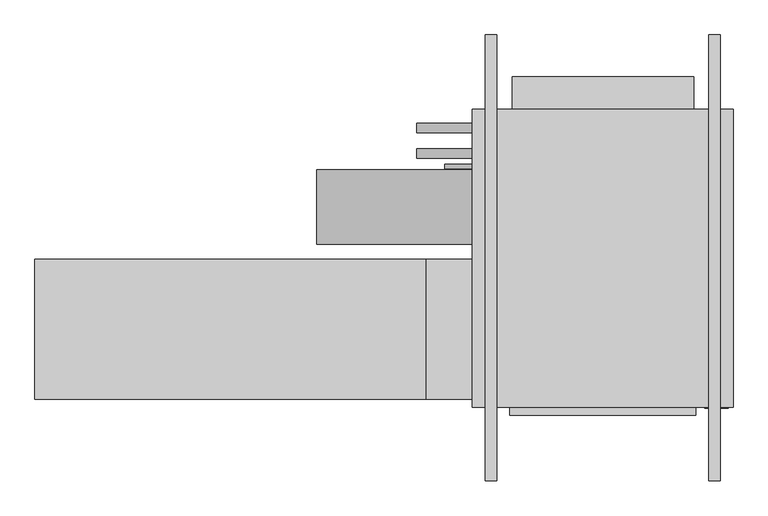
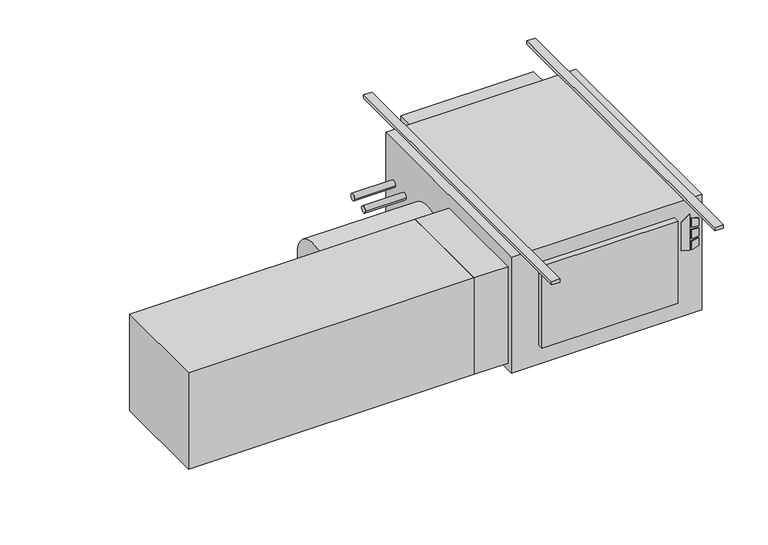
"""IFC4 building model written with IfcOpenShell, lengths in millimetres: proxy geometry."""

from ifc_helpers import new_model, si_unit, point, frame, frame_2d, origin, origin_with_axes, place, context, project, spatial, polyline, circle_curve, trimmed, segment, composite_curve, outline, extrude, source, transform, mapped, element, save


def mechanical_equipment_ee88df2d(model_context):
    return source(origin(), model_context, "Body", "SweptSolid", [
        extrude(outline(polyline([(-193.2519297, 430.2868862), (-203.2, 462.4602728), (-61.0290756, 462.4602728), (-84.0510817, 430.2868862), (-193.2519297, 430.2868862)])), frame((0.0, -647.7, 0.0), z_axis=(0.0, 1.0, 0.0), x_axis=(0.0, 0.0, 1.0)), (0.0, 0.0, 1.0), 3.175),
        extrude(outline(polyline([(-114.2526443, 469.2186058), (-117.4550368, 495.3), (-88.2261958, 495.3), (-80.1617807, 469.2186058), (-114.2526443, 469.2186058)])), frame((0.0, -647.7, 0.0), z_axis=(0.0, 1.0, 0.0), x_axis=(0.0, 0.0, 1.0)), (0.0, 0.0, 1.0), 3.175),
        extrude(outline(polyline([(-166.1161712, 495.3), (-169.7816721, 469.2186058), (-203.2, 469.2186058), (-194.5657628, 495.3), (-166.1161712, 495.3)])), frame((0.0, -647.7, 0.0), z_axis=(0.0, 1.0, 0.0), x_axis=(0.0, 0.0, 1.0)), (0.0, 0.0, 1.0), 3.175),
        extrude(outline(polyline([(-126.8010097, 495.3), (-124.5191834, 469.2186058), (-160.4567319, 469.2186058), (-157.7154669, 495.3), (-126.8010097, 495.3)])), frame((0.0, -647.7, 0.0), z_axis=(0.0, 1.0, 0.0), x_axis=(0.0, 0.0, 1.0)), (0.0, 0.0, 1.0), 3.175),
        extrude(outline(polyline([(406.4, -666.877), (-101.6, -666.877), (-101.6, -644.525), (406.4, -644.525), (406.4, -666.877)])), frame((0.0, 0.0, -381.0), z_axis=(0.0, 0.0, 1.0), x_axis=(1.0, 0.0, 0.0)), (0.0, 0.0, 1.0), 323.85),
        extrude(outline(polyline([(-1397.0, -622.3), (-1397.0, -241.3), (-330.2, -241.3), (-330.2, -622.3), (-1397.0, -622.3)])), frame((0.0, 0.0, -431.8), z_axis=(0.0, 0.0, 1.0), x_axis=(1.0, 0.0, 0.0)), (0.0, 0.0, 1.0), 381.0),
        extrude(outline(polyline([(-203.2, -241.3), (-203.2, -622.3), (-330.2, -622.3), (-330.2, -241.3), (-203.2, -241.3)])), frame((0.0, 0.0, -431.8), z_axis=(0.0, 0.0, 1.0), x_axis=(1.0, 0.0, 0.0)), (0.0, 0.0, 1.0), 381.0),
        extrude(outline(composite_curve([segment(trimmed(circle_curve(frame_2d((-98.4896516, -228.6360165)), 101.6), [point((-200.0896516, -228.6360165))], [point((3.1103484, -228.6360165))], False, "CARTESIAN"), True, "CONTINUOUS"), segment(trimmed(circle_curve(frame_2d((-98.4896516, -228.6360165)), 101.6), [point((3.1103484, -228.6360165))], [point((-200.0896516, -228.6360165))], False, "CARTESIAN"), True, "CONTINUOUS")], self_intersect=False)), frame((-628.65, 0.0, 0.0), z_axis=(1.0, 0.0, 0.0), x_axis=(0.0, 1.0, 0.0)), (0.0, 0.0, 1.0), 425.45),
        extrude(outline(composite_curve([segment(trimmed(circle_curve(frame_2d((47.625, -177.8)), 12.7), [point((34.925, -177.8))], [point((60.325, -177.8))], False, "CARTESIAN"), True, "CONTINUOUS"), segment(trimmed(circle_curve(frame_2d((47.625, -177.8)), 12.7), [point((60.325, -177.8))], [point((34.925, -177.8))], False, "CARTESIAN"), True, "CONTINUOUS")], self_intersect=False)), frame((-355.6, 0.0, 0.0), z_axis=(1.0, 0.0, 0.0), x_axis=(0.0, 1.0, 0.0)), (0.0, 0.0, 1.0), 152.4),
        extrude(outline(composite_curve([segment(trimmed(circle_curve(frame_2d((117.475, -171.45)), 12.7), [point((104.775, -171.45))], [point((130.175, -171.45))], False, "CARTESIAN"), True, "CONTINUOUS"), segment(trimmed(circle_curve(frame_2d((117.475, -171.45)), 12.7), [point((130.175, -171.45))], [point((104.775, -171.45))], False, "CARTESIAN"), True, "CONTINUOUS")], self_intersect=False)), frame((-355.6, 0.0, 0.0), z_axis=(1.0, 0.0, 0.0), x_axis=(0.0, 1.0, 0.0)), (0.0, 0.0, 1.0), 152.4),
        extrude(outline(composite_curve([segment(trimmed(circle_curve(frame_2d((12.7, -409.575)), 6.35), [point((6.35, -409.575))], [point((19.05, -409.575))], False, "CARTESIAN"), True, "CONTINUOUS"), segment(trimmed(circle_curve(frame_2d((12.7, -409.575)), 6.35), [point((19.05, -409.575))], [point((6.35, -409.575))], False, "CARTESIAN"), True, "CONTINUOUS")], self_intersect=False)), frame((-279.4, 0.0, 0.0), z_axis=(1.0, 0.0, 0.0), x_axis=(0.0, 1.0, 0.0)), (0.0, 0.0, 1.0), 76.2),
        extrude(outline(polyline([(508.0, 168.275), (508.0, -644.525), (-203.2, -644.525), (-203.2, 168.275), (508.0, 168.275)])), frame((0.0, 0.0, -457.2), z_axis=(0.0, 0.0, 1.0), x_axis=(1.0, 0.0, 0.0)), (0.0, 0.0, 1.0), 457.2),
        extrude(outline(polyline([(-95.25, 257.175), (400.05, 257.175), (400.05, 168.275), (-95.25, 168.275), (-95.25, 257.175)])), frame((0.0, 0.0, -381.0), z_axis=(0.0, 0.0, 1.0), x_axis=(1.0, 0.0, 0.0)), (0.0, 0.0, 1.0), 355.6),
        extrude(outline(polyline([(-136.525, 371.475), (-136.525, -844.677), (-168.275, -844.677), (-168.275, 371.475), (-136.525, 371.475)])), origin_with_axes(), (0.0, 0.0, 1.0), 12.7),
        extrude(outline(polyline([(473.075, 371.475), (473.075, -844.677), (441.325, -844.677), (441.325, 371.475), (473.075, 371.475)])), origin_with_axes(), (0.0, 0.0, 1.0), 12.7),
    ])


if __name__ == "__main__":
    model = new_model("IFC4")
    model_context = context("Model", 3, world=origin())
    ifc_project = project(units=[si_unit("LENGTHUNIT", "METRE", prefix="MILLI")], contexts=[model_context])
    site = spatial("IfcSite", under=ifc_project)
    building = spatial("IfcBuilding", under=site)
    placement = place(None, origin())
    mechanical_equipment_shape = mechanical_equipment_ee88df2d(model_context)
    element("IfcBuildingElementProxy", 1, Name="High_Capacity_Horizontal_Cabinet_Fan_Coil_Unit_-_HTY_-_IEC_-_2-Pipe_WO-Attenuator_LH Side_2022 : Size 08 - 277v/60Hz/1Ph - 8/0 Coil - 8\" AirIn", ObjectType="High_Capacity_Horizontal_Cabinet_Fan_Coil_Unit_-_HTY_-_IEC_-_2-Pipe_WO-Attenuator_LH Side_2022 : Size 08 - 277v/60Hz/1Ph - 8/0 Coil - 8\" AirIn", at=placement, inside=building, context=model_context, shape_type="MappedRepresentation", body=[
        mapped(mechanical_equipment_shape, transform((0.0, 0.0, 0.0), x_axis=(1.0, 0.0, 0.0), y_axis=(0.0, 1.0, 0.0), z_axis=(0.0, 0.0, 1.0))),
    ])
    save(model, "model.ifc")
